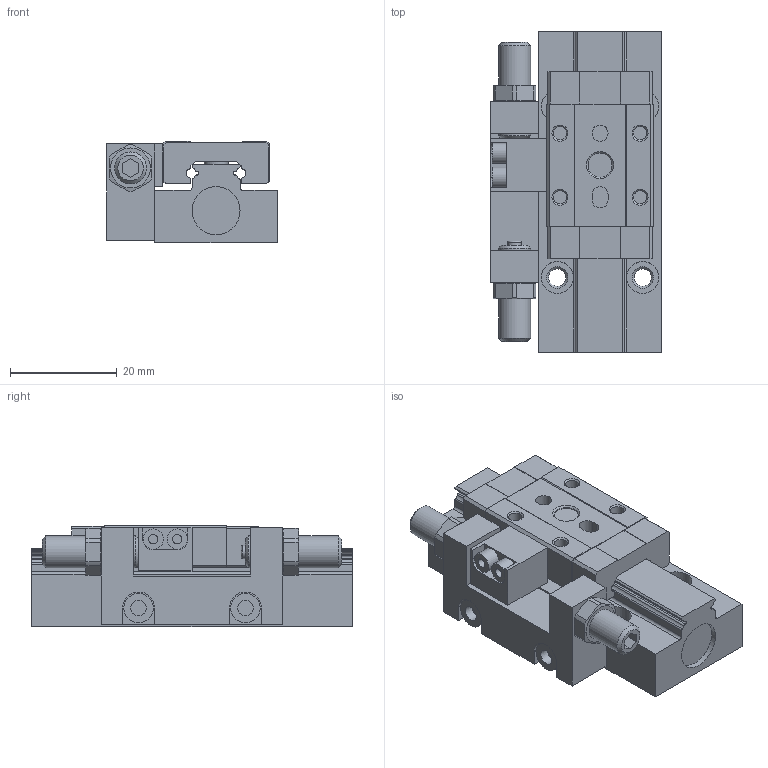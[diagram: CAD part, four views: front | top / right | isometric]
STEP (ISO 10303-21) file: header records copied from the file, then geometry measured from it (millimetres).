
FILE_DESCRIPTION(/* description */ ('STEP AP214'),/* implementation_level */ '2;1');
FILE_NAME(/* name */ 'HGS8X10J(0)',/* time_stamp */ '2024-09-22T11:39:27+02:00',/* author */ ('License CC BY-ND 4.0'),/* organization */ ('CADENAS'),/* preprocessor_version */ 'ST-DEVELOPER v19.3',/* originating_system */ 'PARTsolutions',/* authorisation */ ' ');
FILE_SCHEMA (('AUTOMOTIVE_DESIGN {1 0 10303 214 3 1 1}'));
Length unit declared in the file: millimetre
Products named in the file (4): HGS8X10J(0); HGS8X10J(0)_dummy; HGS8X10J(0)_body; HGS8X10J(0)_t
Assembly tree (3 placements, depth 2):
  HGS8X10J(0)
    HGS8X10J(0)_dummy
    HGS8X10J(0)_body
    HGS8X10J(0)_t
Bounding box: 32 x 60 x 19 mm (x, y, z)
Volume: 23291.7 mm3; surface area: 11917.1 mm2
Topology: 2 solids, 6 shells, 283 faces, 670 edges, 436 vertices
Faces by surface type: plane 167, cylinder 86, cone 28, torus 2
Full cylindrical faces by diameter (mm): 1.567 x4, 1.74 x2, 2.459 x8, 2.5 x2, 2.9 x2, 3 x2, 3.242 x4, 3.8 x2, 4.134 x2, 4.5 x2, 5.5 x2, 6 x8, 9 x2
Entity records: 7801 total; most frequent: CARTESIAN_POINT 1371, DIRECTION 1339, ORIENTED_EDGE 1174, EDGE_CURVE 587, AXIS2_PLACEMENT_3D 489, VERTEX_POINT 424, EDGE_LOOP 401, FACE_BOUND 401
